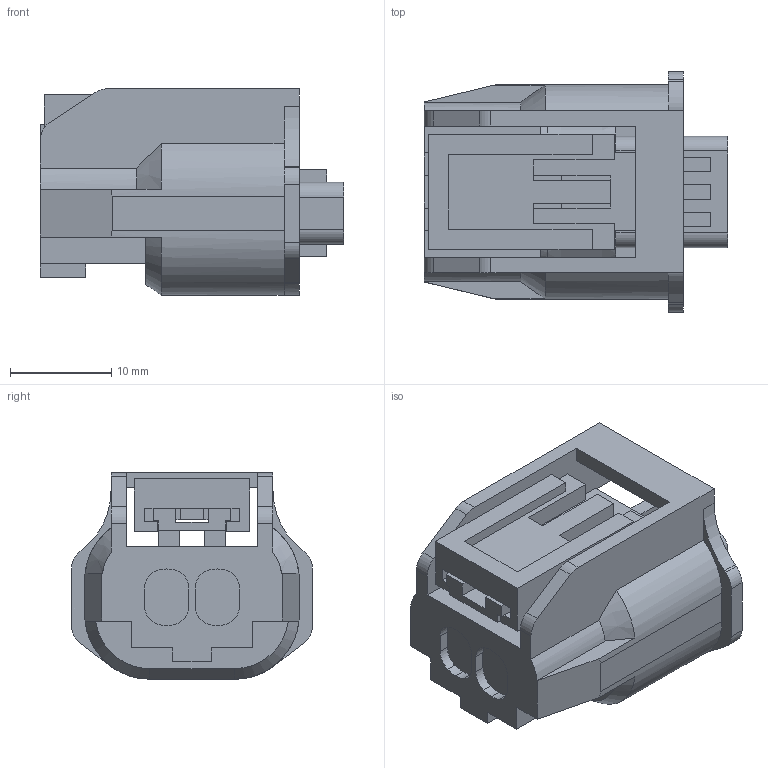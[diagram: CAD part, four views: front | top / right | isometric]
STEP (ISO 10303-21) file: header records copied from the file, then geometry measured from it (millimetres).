
FILE_DESCRIPTION(('CATIA V5 STEP Exchange','CAx-IF Rec.Pracs.--- Model Styling and Organization---1.2---2011-12-15'),'2;1');
FILE_NAME('\\Fss01.ad.sws.co.jp\fs030008\技術管理部\共通\業務\3D設計推進\カタログ用３Ｄ\仮置き\US(Sealed)\6189-7374(CPA open).stp','2016-02-18T02:15:04+00:00',('none'),('none'),'CATIA Version 5-6 Release 2013 SP5 HF43','CATIA V5 STEP AP214','none');
FILE_SCHEMA(('AUTOMOTIVE_DESIGN { 1 0 10303 214 1 1 1 1 }'));
Length unit declared in the file: millimetre
Products named in the file (1): 6189-7374
Bounding box: 30 x 23.8 x 20.4 mm (x, y, z)
Volume: 6197.1 mm3; surface area: 5450.2 mm2
Topology: 1 solids, 2 shells, 249 faces, 746 edges, 501 vertices
Faces by surface type: plane 175, cylinder 56, bspline 10, extrusion 4, cone 4
Entity records: 8439 total; most frequent: CARTESIAN_POINT 1872, ORIENTED_EDGE 1492, DIRECTION 1083, EDGE_CURVE 746, VECTOR 572, LINE 568, VERTEX_POINT 501, AXIS2_PLACEMENT_3D 310
